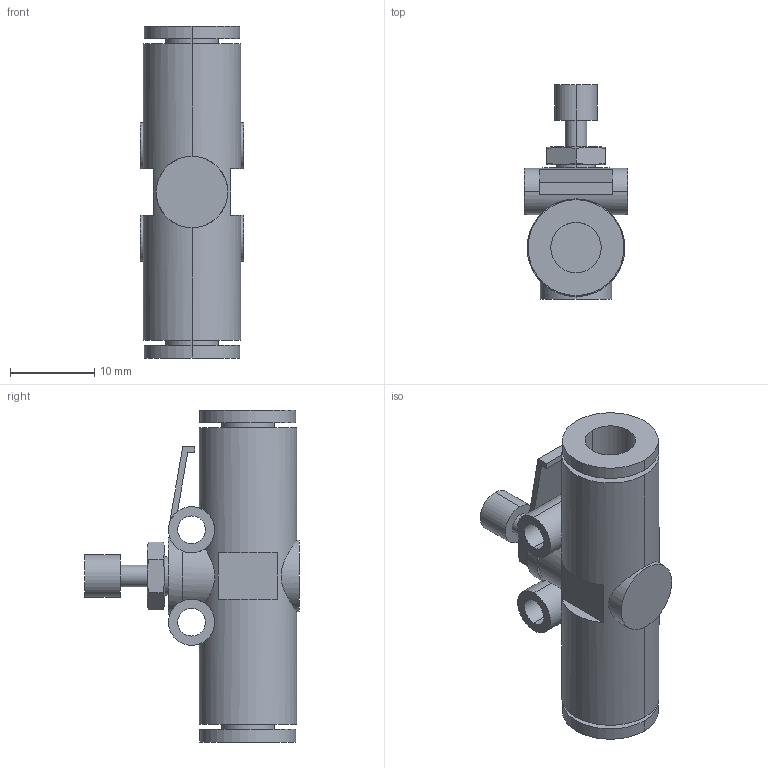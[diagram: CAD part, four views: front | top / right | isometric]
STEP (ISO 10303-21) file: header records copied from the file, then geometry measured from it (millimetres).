
FILE_DESCRIPTION( ( '' ), '1' );
FILE_NAME( 'G:/SMC狟婥/AS1002F-06.stp', '2023-03-07T03:58:08', ( '' ), ( '' ), ' ', ' ', ' ' );
FILE_SCHEMA( ( 'CONFIG_CONTROL_DESIGN' ) );
Length unit declared in the file: millimetre
Products named in the file (1): 1
Bounding box: 12.3 x 25.5 x 39.5 mm (x, y, z)
Volume: 4046.3 mm3; surface area: 3469 mm2
Topology: 1 solids, 1 shells, 77 faces, 181 edges, 119 vertices
Faces by surface type: plane 39, cylinder 34, cone 4
Entity records: 2853 total; most frequent: CARTESIAN_POINT 1028, DIRECTION 378, ORIENTED_EDGE 362, EDGE_CURVE 181, AXIS2_PLACEMENT_3D 152, VERTEX_POINT 119, EDGE_LOOP 94, ADVANCED_FACE 77
